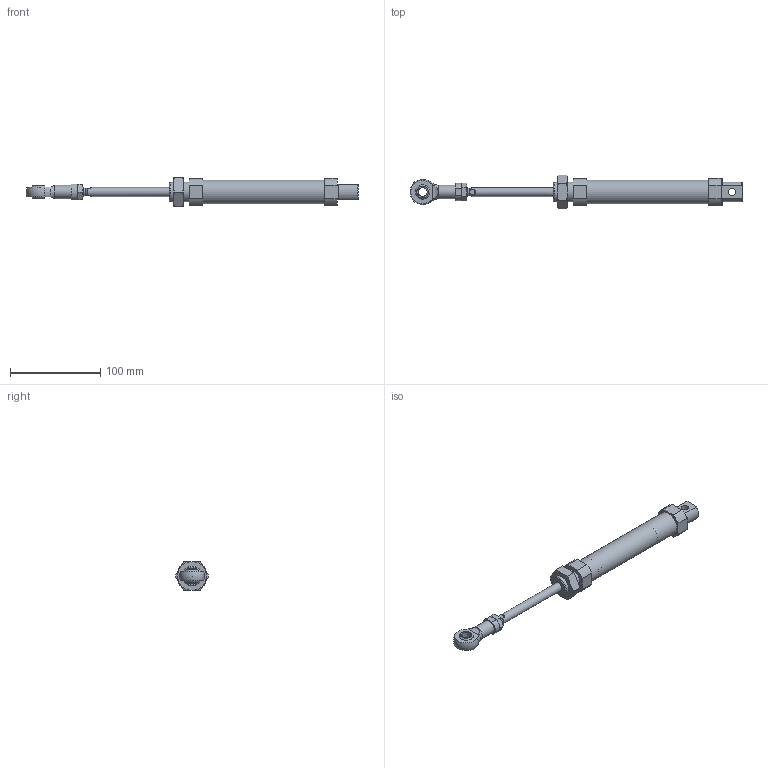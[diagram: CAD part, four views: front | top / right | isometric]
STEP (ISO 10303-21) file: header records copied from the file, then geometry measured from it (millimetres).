
FILE_DESCRIPTION(/* description */ ('C85/CD85-ISO Standard Air Cylinder:Standard Type Double Acting Single Rod'),/* implementation_level */ '2;1');
FILE_NAME(/* name */ 'D:\OneDrive - Vysoké učení technické v Brně\4-PROJEKTY\3_Pneumobil\3-PNEUCAR\CAD\STARTER KIT\C85N25-100(0__0_0).stp',/* time_stamp */ '2023-12-20T16:27:26+01:00',/* author */ ('Michalec'),/* organization */ (''),/* preprocessor_version */ 'ST-DEVELOPER v19',/* originating_system */ 'Autodesk Inventor 2023',/* authorisation */ '');
FILE_SCHEMA (('AUTOMOTIVE_DESIGN { 1 0 10303 214 3 1 1 }'));
Length unit declared in the file: millimetre
Products named in the file (6): C85N25-100(0__0_0); C85N25-100(0)_BODY; C8525-100_ROD; C85NT25(25_); C85SN25(25_); KJ10D(32)
Assembly tree (5 placements, depth 2):
  C85N25-100(0__0_0)
    C85N25-100(0)_BODY
    C8525-100_ROD
    C85NT25(25_)
    C85SN25(25_)
    KJ10D(32)
Bounding box: 368.01 x 36.95 x 32 mm (x, y, z)
Volume: 91175.9 mm3; surface area: 45362 mm2
Topology: 5 solids, 5 shells, 129 faces, 290 edges, 182 vertices
Faces by surface type: plane 53, cone 42, cylinder 30, sphere 3, torus 1
Full cylindrical faces by diameter (mm): 8 x2, 8.376 x1, 8.566 x2, 8.647 x1, 10 x4, 15.2 x1, 20.376 x1, 22 x1, 25 x2, 26.6 x1
Entity records: 3877 total; most frequent: CARTESIAN_POINT 830, DIRECTION 614, ORIENTED_EDGE 572, EDGE_CURVE 286, AXIS2_PLACEMENT_3D 255, VERTEX_POINT 182, EDGE_LOOP 152, FACE_OUTER_BOUND 129
